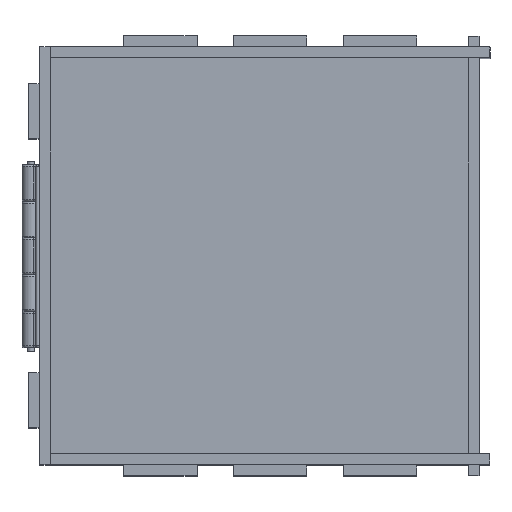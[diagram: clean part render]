
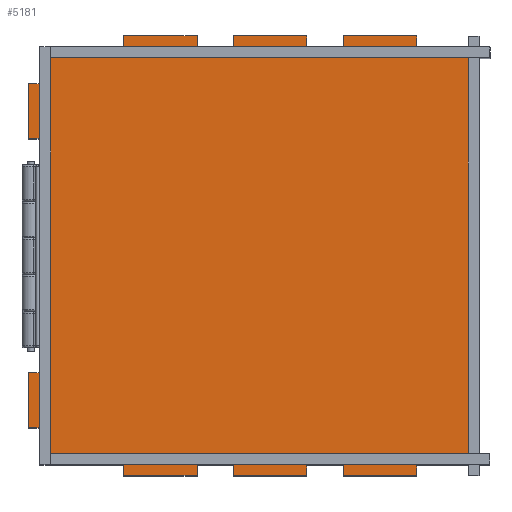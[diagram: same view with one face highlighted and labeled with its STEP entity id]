
A CAD part, top view. The second image highlights one B-rep face of the part: STEP entity #5181.
In plain terms, the highlighted planar face has unit normal (0, 0, 1).
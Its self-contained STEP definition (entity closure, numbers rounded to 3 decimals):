
#520=FACE_OUTER_BOUND('',#833,.T.);
#833=EDGE_LOOP('',(#4309,#4310,#4311,#4312,#4313,#4314,#4315,#4316,#4317,
#4318,#4319,#4320,#4321,#4322,#4323,#4324,#4325,#4326,#4327,#4328,#4329,
#4330,#4331,#4332,#4333,#4334,#4335,#4336,#4337,#4338,#4339,#4340,#4341,
#4342,#4343,#4344));
#1350=LINE('',#7973,#1960);
#1353=LINE('',#7979,#1963);
#1356=LINE('',#7985,#1966);
#1359=LINE('',#7991,#1969);
#1362=LINE('',#7997,#1972);
#1365=LINE('',#8003,#1975);
#1368=LINE('',#8009,#1978);
#1371=LINE('',#8015,#1981);
#1374=LINE('',#8021,#1984);
#1377=LINE('',#8027,#1987);
#1380=LINE('',#8033,#1990);
#1383=LINE('',#8039,#1993);
#1386=LINE('',#8045,#1996);
#1389=LINE('',#8051,#1999);
#1392=LINE('',#8057,#2002);
#1395=LINE('',#8063,#2005);
#1398=LINE('',#8069,#2008);
#1401=LINE('',#8075,#2011);
#1404=LINE('',#8081,#2014);
#1407=LINE('',#8087,#2017);
#1410=LINE('',#8093,#2020);
#1413=LINE('',#8099,#2023);
#1416=LINE('',#8105,#2026);
#1419=LINE('',#8111,#2029);
#1422=LINE('',#8117,#2032);
#1425=LINE('',#8123,#2035);
#1428=LINE('',#8129,#2038);
#1431=LINE('',#8135,#2041);
#1434=LINE('',#8141,#2044);
#1437=LINE('',#8147,#2047);
#1440=LINE('',#8153,#2050);
#1443=LINE('',#8159,#2053);
#1446=LINE('',#8165,#2056);
#1449=LINE('',#8171,#2059);
#1452=LINE('',#8177,#2062);
#1455=LINE('',#8181,#2065);
#1960=VECTOR('',#6490,10.);
#1963=VECTOR('',#6495,10.);
#1966=VECTOR('',#6500,10.);
#1969=VECTOR('',#6505,10.);
#1972=VECTOR('',#6510,10.);
#1975=VECTOR('',#6515,10.);
#1978=VECTOR('',#6520,10.);
#1981=VECTOR('',#6525,10.);
#1984=VECTOR('',#6530,10.);
#1987=VECTOR('',#6535,10.);
#1990=VECTOR('',#6540,10.);
#1993=VECTOR('',#6545,10.);
#1996=VECTOR('',#6550,10.);
#1999=VECTOR('',#6555,10.);
#2002=VECTOR('',#6560,10.);
#2005=VECTOR('',#6565,10.);
#2008=VECTOR('',#6570,10.);
#2011=VECTOR('',#6575,10.);
#2014=VECTOR('',#6580,10.);
#2017=VECTOR('',#6585,10.);
#2020=VECTOR('',#6590,10.);
#2023=VECTOR('',#6595,10.);
#2026=VECTOR('',#6600,10.);
#2029=VECTOR('',#6605,10.);
#2032=VECTOR('',#6610,10.);
#2035=VECTOR('',#6615,10.);
#2038=VECTOR('',#6620,10.);
#2041=VECTOR('',#6625,10.);
#2044=VECTOR('',#6630,10.);
#2047=VECTOR('',#6635,10.);
#2050=VECTOR('',#6640,10.);
#2053=VECTOR('',#6645,10.);
#2056=VECTOR('',#6650,10.);
#2059=VECTOR('',#6655,10.);
#2062=VECTOR('',#6660,10.);
#2065=VECTOR('',#6665,10.);
#2434=VERTEX_POINT('',#7970);
#2435=VERTEX_POINT('',#7972);
#2437=VERTEX_POINT('',#7978);
#2439=VERTEX_POINT('',#7984);
#2441=VERTEX_POINT('',#7990);
#2443=VERTEX_POINT('',#7996);
#2445=VERTEX_POINT('',#8002);
#2447=VERTEX_POINT('',#8008);
#2449=VERTEX_POINT('',#8014);
#2451=VERTEX_POINT('',#8020);
#2453=VERTEX_POINT('',#8026);
#2455=VERTEX_POINT('',#8032);
#2457=VERTEX_POINT('',#8038);
#2459=VERTEX_POINT('',#8044);
#2461=VERTEX_POINT('',#8050);
#2463=VERTEX_POINT('',#8056);
#2465=VERTEX_POINT('',#8062);
#2467=VERTEX_POINT('',#8068);
#2469=VERTEX_POINT('',#8074);
#2471=VERTEX_POINT('',#8080);
#2473=VERTEX_POINT('',#8086);
#2475=VERTEX_POINT('',#8092);
#2477=VERTEX_POINT('',#8098);
#2479=VERTEX_POINT('',#8104);
#2481=VERTEX_POINT('',#8110);
#2483=VERTEX_POINT('',#8116);
#2485=VERTEX_POINT('',#8122);
#2487=VERTEX_POINT('',#8128);
#2489=VERTEX_POINT('',#8134);
#2491=VERTEX_POINT('',#8140);
#2493=VERTEX_POINT('',#8146);
#2495=VERTEX_POINT('',#8152);
#2497=VERTEX_POINT('',#8158);
#2499=VERTEX_POINT('',#8164);
#2501=VERTEX_POINT('',#8170);
#2503=VERTEX_POINT('',#8176);
#3042=EDGE_CURVE('',#2435,#2434,#1350,.T.);
#3045=EDGE_CURVE('',#2437,#2435,#1353,.T.);
#3048=EDGE_CURVE('',#2439,#2437,#1356,.T.);
#3051=EDGE_CURVE('',#2441,#2439,#1359,.T.);
#3054=EDGE_CURVE('',#2443,#2441,#1362,.T.);
#3057=EDGE_CURVE('',#2445,#2443,#1365,.T.);
#3060=EDGE_CURVE('',#2447,#2445,#1368,.T.);
#3063=EDGE_CURVE('',#2449,#2447,#1371,.T.);
#3066=EDGE_CURVE('',#2451,#2449,#1374,.T.);
#3069=EDGE_CURVE('',#2453,#2451,#1377,.T.);
#3072=EDGE_CURVE('',#2455,#2453,#1380,.T.);
#3075=EDGE_CURVE('',#2457,#2455,#1383,.T.);
#3078=EDGE_CURVE('',#2459,#2457,#1386,.T.);
#3081=EDGE_CURVE('',#2461,#2459,#1389,.T.);
#3084=EDGE_CURVE('',#2463,#2461,#1392,.T.);
#3087=EDGE_CURVE('',#2465,#2463,#1395,.T.);
#3090=EDGE_CURVE('',#2467,#2465,#1398,.T.);
#3093=EDGE_CURVE('',#2469,#2467,#1401,.T.);
#3096=EDGE_CURVE('',#2471,#2469,#1404,.T.);
#3099=EDGE_CURVE('',#2473,#2471,#1407,.T.);
#3102=EDGE_CURVE('',#2475,#2473,#1410,.T.);
#3105=EDGE_CURVE('',#2477,#2475,#1413,.T.);
#3108=EDGE_CURVE('',#2479,#2477,#1416,.T.);
#3111=EDGE_CURVE('',#2481,#2479,#1419,.T.);
#3114=EDGE_CURVE('',#2483,#2481,#1422,.T.);
#3117=EDGE_CURVE('',#2485,#2483,#1425,.T.);
#3120=EDGE_CURVE('',#2487,#2485,#1428,.T.);
#3123=EDGE_CURVE('',#2489,#2487,#1431,.T.);
#3126=EDGE_CURVE('',#2491,#2489,#1434,.T.);
#3129=EDGE_CURVE('',#2493,#2491,#1437,.T.);
#3132=EDGE_CURVE('',#2495,#2493,#1440,.T.);
#3135=EDGE_CURVE('',#2497,#2495,#1443,.T.);
#3138=EDGE_CURVE('',#2499,#2497,#1446,.T.);
#3141=EDGE_CURVE('',#2501,#2499,#1449,.T.);
#3144=EDGE_CURVE('',#2503,#2501,#1452,.T.);
#3147=EDGE_CURVE('',#2434,#2503,#1455,.T.);
#4309=ORIENTED_EDGE('',*,*,#3147,.T.);
#4310=ORIENTED_EDGE('',*,*,#3144,.T.);
#4311=ORIENTED_EDGE('',*,*,#3141,.T.);
#4312=ORIENTED_EDGE('',*,*,#3138,.T.);
#4313=ORIENTED_EDGE('',*,*,#3135,.T.);
#4314=ORIENTED_EDGE('',*,*,#3132,.T.);
#4315=ORIENTED_EDGE('',*,*,#3129,.T.);
#4316=ORIENTED_EDGE('',*,*,#3126,.T.);
#4317=ORIENTED_EDGE('',*,*,#3123,.T.);
#4318=ORIENTED_EDGE('',*,*,#3120,.T.);
#4319=ORIENTED_EDGE('',*,*,#3117,.T.);
#4320=ORIENTED_EDGE('',*,*,#3114,.T.);
#4321=ORIENTED_EDGE('',*,*,#3111,.T.);
#4322=ORIENTED_EDGE('',*,*,#3108,.T.);
#4323=ORIENTED_EDGE('',*,*,#3105,.T.);
#4324=ORIENTED_EDGE('',*,*,#3102,.T.);
#4325=ORIENTED_EDGE('',*,*,#3099,.T.);
#4326=ORIENTED_EDGE('',*,*,#3096,.T.);
#4327=ORIENTED_EDGE('',*,*,#3093,.T.);
#4328=ORIENTED_EDGE('',*,*,#3090,.T.);
#4329=ORIENTED_EDGE('',*,*,#3087,.T.);
#4330=ORIENTED_EDGE('',*,*,#3084,.T.);
#4331=ORIENTED_EDGE('',*,*,#3081,.T.);
#4332=ORIENTED_EDGE('',*,*,#3078,.T.);
#4333=ORIENTED_EDGE('',*,*,#3075,.T.);
#4334=ORIENTED_EDGE('',*,*,#3072,.T.);
#4335=ORIENTED_EDGE('',*,*,#3069,.T.);
#4336=ORIENTED_EDGE('',*,*,#3066,.T.);
#4337=ORIENTED_EDGE('',*,*,#3063,.T.);
#4338=ORIENTED_EDGE('',*,*,#3060,.T.);
#4339=ORIENTED_EDGE('',*,*,#3057,.T.);
#4340=ORIENTED_EDGE('',*,*,#3054,.T.);
#4341=ORIENTED_EDGE('',*,*,#3051,.T.);
#4342=ORIENTED_EDGE('',*,*,#3048,.T.);
#4343=ORIENTED_EDGE('',*,*,#3045,.T.);
#4344=ORIENTED_EDGE('',*,*,#3042,.T.);
#4967=PLANE('',#5581);
#5181=ADVANCED_FACE('',(#520),#4967,.T.);
#5581=AXIS2_PLACEMENT_3D('',#8182,#6666,#6667);
#6490=DIRECTION('',(1.,0.,0.));
#6495=DIRECTION('',(0.,-1.,0.));
#6500=DIRECTION('',(-1.,0.,0.));
#6505=DIRECTION('',(0.,-1.,0.));
#6510=DIRECTION('',(1.,0.,0.));
#6515=DIRECTION('',(0.,-1.,0.));
#6520=DIRECTION('',(-1.,0.,0.));
#6525=DIRECTION('',(0.,-1.,0.));
#6530=DIRECTION('',(1.,0.,0.));
#6535=DIRECTION('',(0.,-1.,0.));
#6540=DIRECTION('',(-1.,0.,0.));
#6545=DIRECTION('',(0.,-1.,0.));
#6550=DIRECTION('',(-1.,0.,0.));
#6555=DIRECTION('',(0.,-1.,0.));
#6560=DIRECTION('',(-1.,0.,0.));
#6565=DIRECTION('',(0.,1.,0.));
#6570=DIRECTION('',(-1.,0.,0.));
#6575=DIRECTION('',(0.,-1.,0.));
#6580=DIRECTION('',(-1.,0.,0.));
#6585=DIRECTION('',(0.,1.,0.));
#6590=DIRECTION('',(-1.,0.,0.));
#6595=DIRECTION('',(0.,1.,0.));
#6600=DIRECTION('',(-1.,0.,0.));
#6605=DIRECTION('',(0.,1.,0.));
#6610=DIRECTION('',(1.,0.,0.));
#6615=DIRECTION('',(0.,1.,0.));
#6620=DIRECTION('',(-1.,0.,0.));
#6625=DIRECTION('',(0.,1.,0.));
#6630=DIRECTION('',(1.,0.,0.));
#6635=DIRECTION('',(0.,1.,0.));
#6640=DIRECTION('',(-1.,0.,0.));
#6645=DIRECTION('',(0.,1.,0.));
#6650=DIRECTION('',(1.,0.,0.));
#6655=DIRECTION('',(0.,1.,0.));
#6660=DIRECTION('',(1.,0.,0.));
#6665=DIRECTION('',(0.,-1.,0.));
#6666=DIRECTION('center_axis',(0.,0.,1.));
#6667=DIRECTION('ref_axis',(1.,0.,0.));
#7970=CARTESIAN_POINT('',(-54.,-46.,3.));
#7972=CARTESIAN_POINT('',(-60.,-46.,3.));
#7973=CARTESIAN_POINT('',(-54.,-46.,3.));
#7978=CARTESIAN_POINT('',(-60.,-26.,3.));
#7979=CARTESIAN_POINT('',(-60.,-26.,3.));
#7984=CARTESIAN_POINT('',(-54.,-26.,3.));
#7985=CARTESIAN_POINT('',(-54.,-26.,3.));
#7990=CARTESIAN_POINT('',(-54.,-16.,3.));
#7991=CARTESIAN_POINT('',(-54.,54.,3.));
#7996=CARTESIAN_POINT('',(-60.,-16.,3.));
#7997=CARTESIAN_POINT('',(-54.,-16.,3.));
#8002=CARTESIAN_POINT('',(-60.,4.,3.));
#8003=CARTESIAN_POINT('',(-60.,4.,3.));
#8008=CARTESIAN_POINT('',(-54.,4.,3.));
#8009=CARTESIAN_POINT('',(-54.,4.,3.));
#8014=CARTESIAN_POINT('',(-54.,14.,3.));
#8015=CARTESIAN_POINT('',(-54.,54.,3.));
#8020=CARTESIAN_POINT('',(-60.,14.,3.));
#8021=CARTESIAN_POINT('',(-54.,14.,3.));
#8026=CARTESIAN_POINT('',(-60.,34.,3.));
#8027=CARTESIAN_POINT('',(-60.,34.,3.));
#8032=CARTESIAN_POINT('',(-54.,34.,3.));
#8033=CARTESIAN_POINT('',(-54.,34.,3.));
#8038=CARTESIAN_POINT('',(-54.,54.,3.));
#8039=CARTESIAN_POINT('',(-54.,54.,3.));
#8044=CARTESIAN_POINT('',(-47.,54.,3.));
#8045=CARTESIAN_POINT('',(-54.,54.,3.));
#8050=CARTESIAN_POINT('',(-47.,60.,3.));
#8051=CARTESIAN_POINT('',(-47.,54.,3.));
#8056=CARTESIAN_POINT('',(-32.,60.,3.));
#8057=CARTESIAN_POINT('',(-47.,60.,3.));
#8062=CARTESIAN_POINT('',(-32.,54.,3.));
#8063=CARTESIAN_POINT('',(-32.,54.,3.));
#8068=CARTESIAN_POINT('',(32.,54.,3.));
#8069=CARTESIAN_POINT('',(-54.,54.,3.));
#8074=CARTESIAN_POINT('',(32.,60.,3.));
#8075=CARTESIAN_POINT('',(32.,54.,3.));
#8080=CARTESIAN_POINT('',(47.,60.,3.));
#8081=CARTESIAN_POINT('',(32.,60.,3.));
#8086=CARTESIAN_POINT('',(47.,54.,3.));
#8087=CARTESIAN_POINT('',(47.,54.,3.));
#8092=CARTESIAN_POINT('',(54.,54.,3.));
#8093=CARTESIAN_POINT('',(-54.,54.,3.));
#8098=CARTESIAN_POINT('',(54.,34.,3.));
#8099=CARTESIAN_POINT('',(54.,54.,3.));
#8104=CARTESIAN_POINT('',(60.,34.,3.));
#8105=CARTESIAN_POINT('',(54.,34.,3.));
#8110=CARTESIAN_POINT('',(60.,14.,3.));
#8111=CARTESIAN_POINT('',(60.,34.,3.));
#8116=CARTESIAN_POINT('',(54.,14.,3.));
#8117=CARTESIAN_POINT('',(54.,14.,3.));
#8122=CARTESIAN_POINT('',(54.,4.,3.));
#8123=CARTESIAN_POINT('',(54.,54.,3.));
#8128=CARTESIAN_POINT('',(60.,4.,3.));
#8129=CARTESIAN_POINT('',(54.,4.,3.));
#8134=CARTESIAN_POINT('',(60.,-16.,3.));
#8135=CARTESIAN_POINT('',(60.,4.,3.));
#8140=CARTESIAN_POINT('',(54.,-16.,3.));
#8141=CARTESIAN_POINT('',(54.,-16.,3.));
#8146=CARTESIAN_POINT('',(54.,-26.,3.));
#8147=CARTESIAN_POINT('',(54.,54.,3.));
#8152=CARTESIAN_POINT('',(60.,-26.,3.));
#8153=CARTESIAN_POINT('',(54.,-26.,3.));
#8158=CARTESIAN_POINT('',(60.,-46.,3.));
#8159=CARTESIAN_POINT('',(60.,-26.,3.));
#8164=CARTESIAN_POINT('',(54.,-46.,3.));
#8165=CARTESIAN_POINT('',(54.,-46.,3.));
#8170=CARTESIAN_POINT('',(54.,-60.,3.));
#8171=CARTESIAN_POINT('',(54.,54.,3.));
#8176=CARTESIAN_POINT('',(-54.,-60.,3.));
#8177=CARTESIAN_POINT('',(-54.,-60.,3.));
#8181=CARTESIAN_POINT('',(-54.,54.,3.));
#8182=CARTESIAN_POINT('Origin',(0.,0.,3.));
